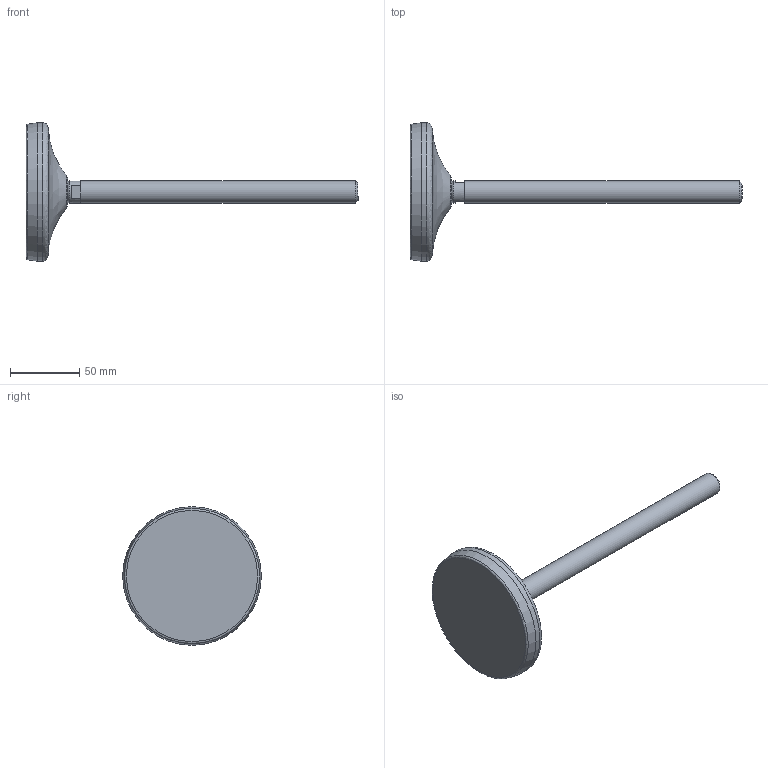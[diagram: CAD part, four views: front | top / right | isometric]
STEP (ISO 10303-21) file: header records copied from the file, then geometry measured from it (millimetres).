
FILE_DESCRIPTION(('STEP AP203'),'2;1');
FILE_NAME('25110.stp','2013-11-18T16:37:49',(''),(''),'2008.1.107','THINKDESIGN','');
FILE_SCHEMA(('CONFIG_CONTROL_DESIGN'));
Length unit declared in the file: millimetre
Bounding box: 239.5 x 100 x 100 mm (x, y, z)
Volume: 190596 mm3; surface area: 46987.6 mm2
Topology: 4 solids, 4 shells, 22 faces, 49 edges, 35 vertices
Faces by surface type: plane 12, bspline 7, cylinder 3
Full cylindrical faces by diameter (mm): 16 x2, 100 x1
Entity records: 1202 total; most frequent: CARTESIAN_POINT 602, DIRECTION 115, ORIENTED_EDGE 98, AXIS2_PLACEMENT_3D 51, EDGE_CURVE 49, CIRCLE 36, VERTEX_POINT 35, EDGE_LOOP 22
